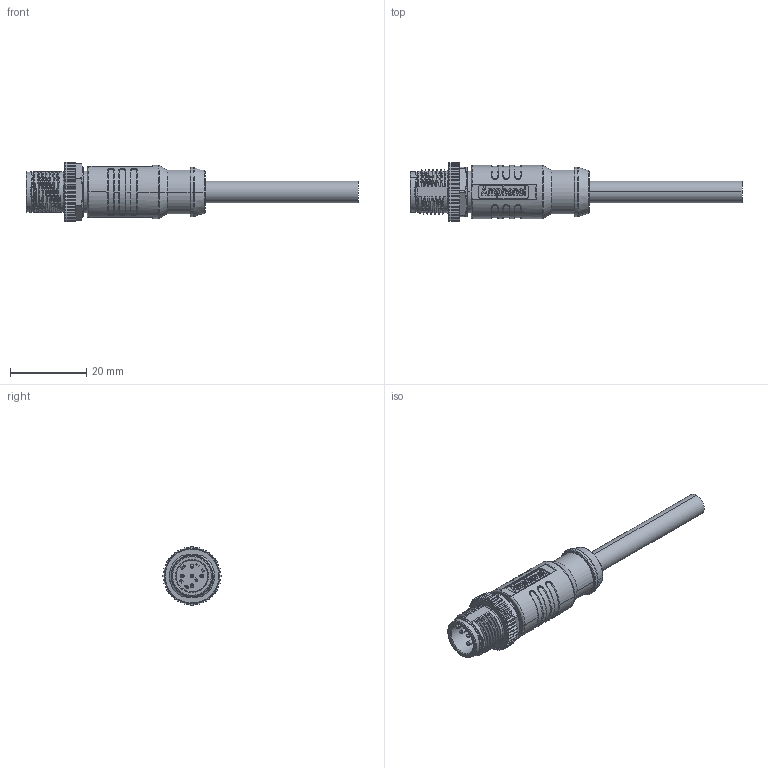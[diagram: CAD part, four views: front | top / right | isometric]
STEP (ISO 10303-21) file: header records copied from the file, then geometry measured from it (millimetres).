
FILE_DESCRIPTION((''),'2;1');
FILE_NAME('MSAS-05BMMM-SL8BXX','2021-03-18T',('L170024'),(''),'PRO/ENGINEER BY PARAMETRIC TECHNOLOGY CORPORATION, 2017170','PRO/ENGINEER BY PARAMETRIC TECHNOLOGY CORPORATION, 2017170','');
FILE_SCHEMA(('CONFIG_CONTROL_DESIGN'));
Products named in the file (1): MSAS-05BMMM-SL8BXX
Bounding box: 87 x 15.3 x 15.5 mm (x, y, z)
Volume: 6550 mm3; surface area: 4609.2 mm2
Topology: 2 solids, 2 shells, 951 faces, 2485 edges, 1585 vertices
Faces by surface type: plane 403, cylinder 202, bspline 158, extrusion 110, torus 44, cone 22, sphere 12
Entity records: 51927 total; most frequent: CARTESIAN_POINT 22904, ORIENTED_EDGE 4970, DIRECTION 3965, EDGE_CURVE 2485, VERTEX_POINT 1585, VECTOR 1419, LINE 1309, AXIS2_PLACEMENT_3D 1273
